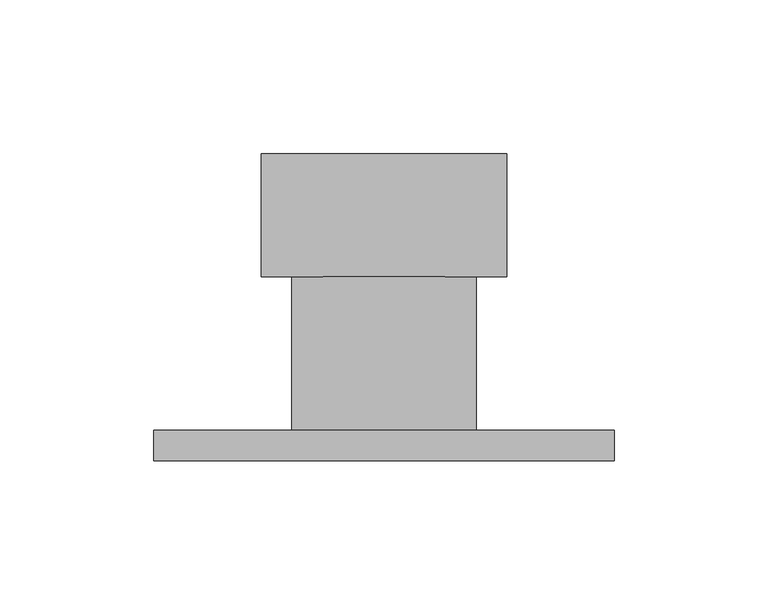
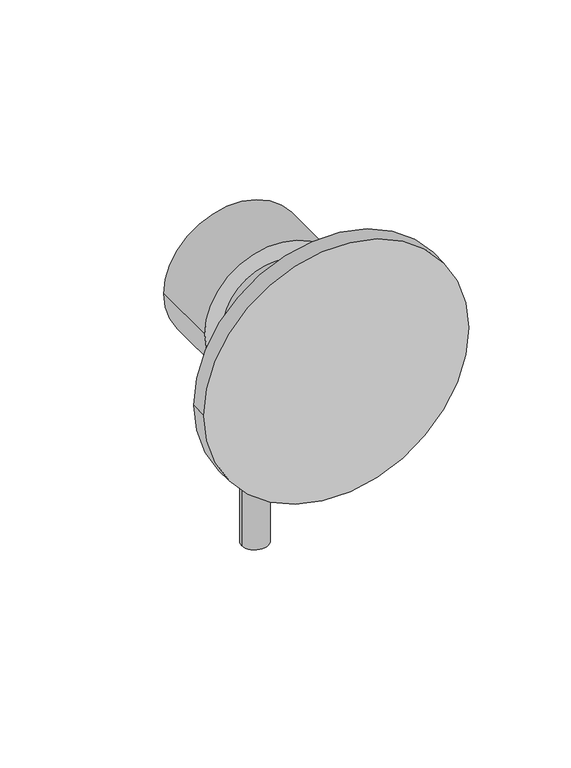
"""IFC4 building model written with IfcOpenShell, lengths in millimetres: flow terminal geometry, Monomando Dica 4473.9 : Accesorios_baño."""

import ifcopenshell
import ifcopenshell.guid

model = None  # the IFC model being written
_history = None  # IfcOwnerHistory: only IFC2X3 demands one
_inside = {}  # id of a spatial element -> (the spatial element, [elements in it])
_under = {}  # id of a project, library or spatial element -> (it, [spatial elements below it])
_declared = {}  # id of a project -> (the project, [libraries it declares])
_typed = {}  # id of a type object -> (the type object, [elements of that type])
_made_of = {}  # id of a material, layer set ... -> (it, [elements and type objects made of it])


def new_model(schema):
    """Start an empty IFC model of exactly this schema.

    Asked for "IFC4X3", IfcOpenShell would pick the latest addendum, in which some entities
    have other attributes; the version numbers below select the first issue.
    IFC2X3 requires an IfcOwnerHistory on every rooted entity: one is made here for all.
    """
    global model, _history
    if schema == "IFC4X3":
        model = ifcopenshell.file(schema_version=(4, 3, 0, 0))
    else:
        model = ifcopenshell.file(schema=schema)
    _inside.clear()
    _under.clear()
    _declared.clear()
    _typed.clear()
    _made_of.clear()
    _history = None
    if model.schema == "IFC2X3":
        org = make("IfcOrganization", Name="unknown")
        user = make(
            "IfcPersonAndOrganization",
            ThePerson=make("IfcPerson", FamilyName="unknown"),
            TheOrganization=org,
        )
        app = make(
            "IfcApplication",
            ApplicationDeveloper=org,
            Version="unknown",
            ApplicationFullName="unknown",
            ApplicationIdentifier="unknown",
        )
        _history = make(
            "IfcOwnerHistory",
            OwningUser=user,
            OwningApplication=app,
            ChangeAction="ADDED",
            CreationDate=0,
        )
    return model


def make(cls, **values):
    """One entity of the class cls with the attributes given. An attribute that is None is left unset."""
    return model.create_entity(
        cls, **{name: value for name, value in values.items() if value is not None}
    )


def rooted(cls, **values):
    """An entity with a GlobalId (a new one), such as an element, a storey or a relation."""
    return make(cls, GlobalId=ifcopenshell.guid.new(), OwnerHistory=_history, **values)


def si_unit(unit_type, name, prefix=None):
    """IfcSIUnit, for example si_unit("LENGTHUNIT", "METRE", prefix="MILLI")."""
    return make("IfcSIUnit", UnitType=unit_type, Prefix=prefix, Name=name)


def assignment(units):
    """IfcUnitAssignment: the units of a project."""
    return None if units is None else make("IfcUnitAssignment", Units=units)


def point(xyz):
    """IfcCartesianPoint."""
    return None if xyz is None else make("IfcCartesianPoint", Coordinates=xyz)


def direction(xyz):
    """IfcDirection."""
    return None if xyz is None else make("IfcDirection", DirectionRatios=xyz)


def frame(location, z_axis=None, x_axis=None):
    """IfcAxis2Placement3D, a coordinate frame: its origin and axes. An axis left out is left unset."""
    return make(
        "IfcAxis2Placement3D",
        Location=point(location),
        Axis=direction(z_axis),
        RefDirection=direction(x_axis),
    )


def frame_2d(location, x_axis=None):
    """IfcAxis2Placement2D, a coordinate frame in the plane: its origin and x axis."""
    return make(
        "IfcAxis2Placement2D", Location=point(location), RefDirection=direction(x_axis)
    )


def origin():
    """The frame at (0, 0, 0) with its axes left unset."""
    return frame((0.0, 0.0, 0.0))


def place(relative_to, where):
    """IfcLocalPlacement: puts the frame where relative to a parent placement (None: the world)."""
    return make(
        "IfcLocalPlacement", PlacementRelTo=relative_to, RelativePlacement=where
    )


def context(
    kind, dimensions, precision=None, world=None, true_north=None, identifier=None
):
    """IfcGeometricRepresentationContext, for example the 3D "Model" context."""
    return make(
        "IfcGeometricRepresentationContext",
        ContextIdentifier=identifier,
        ContextType=kind,
        CoordinateSpaceDimension=dimensions,
        Precision=precision,
        WorldCoordinateSystem=world,
        TrueNorth=true_north,
    )


def project(units=None, contexts=None):
    """IfcProject with its units and contexts."""
    return rooted(
        "IfcProject",
        Name="project",
        RepresentationContexts=contexts,
        UnitsInContext=assignment(units),
    )


def spatial(cls, under=None, at=None, **own):
    """A site, building, storey or space (cls), placed at a placement, below another one or the project."""
    s = rooted(cls, ObjectPlacement=at, **own)
    if under is not None:
        _under.setdefault(under.id(), (under, []))[1].append(s)
    return s


def circle_curve(where, radius):
    """IfcCircle in the frame where."""
    return make("IfcCircle", Position=where, Radius=radius)


def trimmed(basis, trim1, trim2, sense, master):
    """IfcTrimmedCurve: the piece of a basis curve between two trims."""
    return make(
        "IfcTrimmedCurve",
        BasisCurve=basis,
        Trim1=trim1,
        Trim2=trim2,
        SenseAgreement=sense,
        MasterRepresentation=master,
    )


def segment(curve, same_sense, transition):
    """IfcCompositeCurveSegment."""
    return make(
        "IfcCompositeCurveSegment",
        Transition=transition,
        SameSense=same_sense,
        ParentCurve=curve,
    )


def composite_curve(segments, self_intersect=None):
    """IfcCompositeCurve: segments joined end to end."""
    return make("IfcCompositeCurve", Segments=segments, SelfIntersect=self_intersect)


def outline(outer, holes=None, kind="AREA"):
    """IfcArbitraryClosedProfileDef: a profile drawn as a closed curve; with holes, ...WithVoids."""
    if holes is None:
        return make("IfcArbitraryClosedProfileDef", ProfileType=kind, OuterCurve=outer)
    return make(
        "IfcArbitraryProfileDefWithVoids",
        ProfileType=kind,
        OuterCurve=outer,
        InnerCurves=holes,
    )


def extrude(swept, where, along, depth):
    """IfcExtrudedAreaSolid: the profile swept, set in the frame where, extruded along a direction by depth."""
    return make(
        "IfcExtrudedAreaSolid",
        SweptArea=swept,
        Position=where,
        ExtrudedDirection=direction(along),
        Depth=depth,
    )


def shape(context_of_items, identifier, shape_type, items):
    """IfcShapeRepresentation: the items that make up one representation, for example the "Body"."""
    return make(
        "IfcShapeRepresentation",
        ContextOfItems=context_of_items,
        RepresentationIdentifier=identifier,
        RepresentationType=shape_type,
        Items=items,
    )


def source(mapping_origin, context_of_items, identifier, shape_type, items):
    """IfcRepresentationMap: a shape defined once, which mapped items show again and again."""
    return make(
        "IfcRepresentationMap",
        MappingOrigin=mapping_origin,
        MappedRepresentation=shape(context_of_items, identifier, shape_type, items),
    )


def transform(
    local_origin,
    x_axis=None,
    y_axis=None,
    z_axis=None,
    scale=None,
    scale2=None,
    scale3=None,
    uniform=True,
):
    """IfcCartesianTransformationOperator3D, or its non-uniform kind. x_axis, y_axis, z_axis: its Axis1, 2, 3."""
    if uniform:
        return make(
            "IfcCartesianTransformationOperator3D",
            Axis1=direction(x_axis),
            Axis2=direction(y_axis),
            LocalOrigin=point(local_origin),
            Scale=scale,
            Axis3=direction(z_axis),
        )
    return make(
        "IfcCartesianTransformationOperator3DnonUniform",
        Axis1=direction(x_axis),
        Axis2=direction(y_axis),
        LocalOrigin=point(local_origin),
        Scale=scale,
        Axis3=direction(z_axis),
        Scale2=scale2,
        Scale3=scale3,
    )


def mapped(mapping_source, mapping_target):
    """IfcMappedItem: shows the shape of a source again, moved by a transform."""
    return make(
        "IfcMappedItem", MappingSource=mapping_source, MappingTarget=mapping_target
    )


def made_of(thing, what):
    """Note that an element or type object is made of a material, layer set ...; save() writes the relation."""
    if what is not None:
        _made_of.setdefault(what.id(), (what, []))[1].append(thing)
    return thing


def element(
    cls,
    number,
    at=None,
    inside=None,
    cuts=None,
    type_object=None,
    material=None,
    context=None,
    identifier="Body",
    shape_type=None,
    held_by="IfcProductDefinitionShape",
    body=None,
    shapes=None,
    **own,
):
    """One element of the class cls, such as IfcWall. Its Tag is "e" and its number.

    at: its placement. inside: the storey or other place that contains it. cuts: it is an
    opening in that element (IfcRelVoidsElement). A single representation is given by context,
    identifier, shape_type and body (its items); several are given by shapes. held_by: the class
    of the entity that holds the representations. save() writes the other relations.
    """
    e = rooted(cls, Tag="e%d" % number, ObjectPlacement=at, **own)
    if body is not None:
        shapes = [shape(context, identifier, shape_type, body)]
    if shapes is not None:
        e.Representation = make(held_by, Representations=shapes)
    if inside is not None:
        _inside.setdefault(inside.id(), (inside, []))[1].append(e)
    if cuts is not None:
        rooted(
            "IfcRelVoidsElement", RelatingBuildingElement=cuts, RelatedOpeningElement=e
        )
    if type_object is not None:
        _typed.setdefault(type_object.id(), (type_object, []))[1].append(e)
    return made_of(e, material)


def aggregate(whole, parts):
    """IfcRelAggregates: a whole, such as a stair, and the parts it consists of."""
    return rooted("IfcRelAggregates", RelatingObject=whole, RelatedObjects=parts)


def save(model, path):
    """Write the relations noted so far, then the file.

    IfcRelAggregates (storeys below a building ...), IfcRelContainedInSpatialStructure (elements
    in a storey), IfcRelDefinesByType, IfcRelAssociatesMaterial and IfcRelDeclares: one each for
    every whole, place, type object, material and project.
    """
    for whole, parts in _under.values():
        aggregate(whole, parts)
    for where, things in _inside.values():
        rooted(
            "IfcRelContainedInSpatialStructure",
            RelatedElements=things,
            RelatingStructure=where,
        )
    for kind, things in _typed.values():
        rooted("IfcRelDefinesByType", RelatedObjects=things, RelatingType=kind)
    for what, things in _made_of.values():
        rooted("IfcRelAssociatesMaterial", RelatedObjects=things, RelatingMaterial=what)
    for by, libraries in _declared.values():
        rooted("IfcRelDeclares", RelatingContext=by, RelatedDefinitions=libraries)
    model.write(path)


def flow_terminal_979eccb3(model_context):
    return source(origin(), model_context, "Body", "SweptSolid", [
        extrude(outline(composite_curve([segment(trimmed(circle_curve(frame_2d((125.0, 90.0)), 7.5), [point((132.5, 90.0))], [point((117.5, 90.0))], False, "CARTESIAN"), True, "CONTINUOUS"), segment(trimmed(circle_curve(frame_2d((125.0, 90.0)), 7.5), [point((117.5, 90.0))], [point((132.5, 90.0))], False, "CARTESIAN"), True, "CONTINUOUS")], self_intersect=False)), frame((0.0, 0.0, 950.0), z_axis=(0.0, 0.0, 1.0), x_axis=(1.0, 0.0, 0.0)), (0.0, 0.0, 1.0), 150.0),
        extrude(outline(composite_curve([segment(trimmed(circle_curve(frame_2d((1100.0, 125.0)), 40.0), [point((1100.0, 165.0))], [point((1100.0, 85.0))], False, "CARTESIAN"), True, "CONTINUOUS"), segment(trimmed(circle_curve(frame_2d((1100.0, 125.0)), 40.0), [point((1100.0, 85.0))], [point((1100.0, 165.0))], False, "CARTESIAN"), True, "CONTINUOUS")], self_intersect=False)), frame((0.0, 70.0, 0.0), z_axis=(0.0, 1.0, 0.0), x_axis=(0.0, 0.0, 1.0)), (0.0, 0.0, 1.0), 40.0),
        extrude(outline(composite_curve([segment(trimmed(circle_curve(frame_2d((1100.0, 125.0)), 30.0), [point((1100.0, 155.0))], [point((1100.0, 95.0))], False, "CARTESIAN"), True, "CONTINUOUS"), segment(trimmed(circle_curve(frame_2d((1100.0, 125.0)), 30.0), [point((1100.0, 95.0))], [point((1100.0, 155.0))], False, "CARTESIAN"), True, "CONTINUOUS")], self_intersect=False)), frame((0.0, 20.0, 0.0), z_axis=(0.0, 1.0, 0.0), x_axis=(0.0, 0.0, 1.0)), (0.0, 0.0, 1.0), 50.0),
        extrude(outline(composite_curve([segment(trimmed(circle_curve(frame_2d((1100.0, 125.0)), 75.0), [point((1100.0, 200.0))], [point((1100.0, 50.0))], False, "CARTESIAN"), True, "CONTINUOUS"), segment(trimmed(circle_curve(frame_2d((1100.0, 125.0)), 75.0), [point((1100.0, 50.0))], [point((1100.0, 200.0))], False, "CARTESIAN"), True, "CONTINUOUS")], self_intersect=False)), frame((0.0, 10.0, 0.0), z_axis=(0.0, 1.0, 0.0), x_axis=(0.0, 0.0, 1.0)), (0.0, 0.0, 1.0), 10.0),
    ])


if __name__ == "__main__":
    model = new_model("IFC4")
    model_context = context("Model", 3, world=origin())
    ifc_project = project(units=[si_unit("LENGTHUNIT", "METRE", prefix="MILLI")], contexts=[model_context])
    site = spatial("IfcSite", under=ifc_project)
    building = spatial("IfcBuilding", under=site)
    placement = place(None, origin())
    flow_terminal_shape = flow_terminal_979eccb3(model_context)
    element("IfcFlowTerminal", 1, ObjectType="Monomando Dica 4473.9 : Accesorios_baño", at=placement, inside=building, context=model_context, shape_type="MappedRepresentation", body=[
        mapped(flow_terminal_shape, transform((0.0, 0.0, 0.0), x_axis=(1.0, 0.0, 0.0), y_axis=(0.0, 1.0, 0.0), z_axis=(0.0, 0.0, 1.0))),
    ])
    save(model, "model.ifc")
